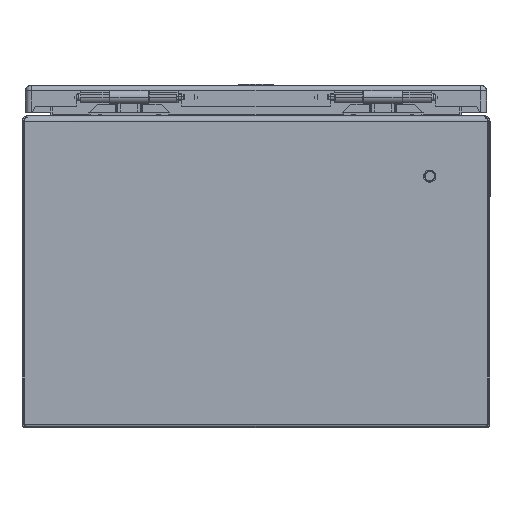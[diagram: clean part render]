
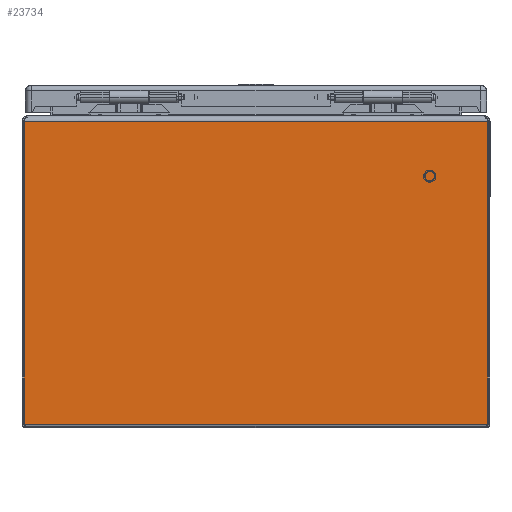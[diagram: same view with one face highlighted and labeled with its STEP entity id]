
A CAD part, left-side view. The second image highlights one B-rep face of the part: STEP entity #23734.
In plain terms, the highlighted planar face has unit normal (-1, 0, 0).
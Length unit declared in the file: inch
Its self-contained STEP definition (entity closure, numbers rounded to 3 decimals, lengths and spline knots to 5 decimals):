
#3209 = CARTESIAN_POINT ( 'NONE',  ( -12., 126., 7.859 ) ) ;
#3213 = PLANE ( 'NONE',  #6216 ) ;
#3218 = DIRECTION ( 'NONE',  ( -1., 0., 0. ) ) ;
#3219 = DIRECTION ( 'NONE',  ( 0., 0., -1. ) ) ;
#4544 = FACE_OUTER_BOUND ( 'NONE', #21582, .T. ) ;
#5188 = CARTESIAN_POINT ( 'NONE',  ( -12., 5.94693, 0.097 ) ) ;
#5191 = CARTESIAN_POINT ( 'NONE',  ( -12., 5.94693, 7.859 ) ) ;
#5244 = CARTESIAN_POINT ( 'NONE',  ( -12., -5.94693, 7.859 ) ) ;
#5249 = CARTESIAN_POINT ( 'NONE',  ( -12., -5.94693, 0.097 ) ) ;
#5993 = VECTOR ( 'NONE', #9456, 39.37008 ) ;
#5997 = LINE ( 'NONE', #9455, #5993 ) ;
#6058 = LINE ( 'NONE', #9563, #6061 ) ;
#6061 = VECTOR ( 'NONE', #9564, 39.37008 ) ;
#6079 = LINE ( 'NONE', #9597, #6085 ) ;
#6084 = LINE ( 'NONE', #9599, #6093 ) ;
#6085 = VECTOR ( 'NONE', #9598, 39.37008 ) ;
#6093 = VECTOR ( 'NONE', #9605, 39.37008 ) ;
#6216 = AXIS2_PLACEMENT_3D ( 'NONE', #3209, #3218, #3219 ) ;
#9455 = CARTESIAN_POINT ( 'NONE',  ( -12., 5.94693, 7.859 ) ) ;
#9456 = DIRECTION ( 'NONE',  ( 0., 0., -1. ) ) ;
#9563 = CARTESIAN_POINT ( 'NONE',  ( -12., -5.94693, 7.859 ) ) ;
#9564 = DIRECTION ( 'NONE',  ( 0., 0., 1. ) ) ;
#9597 = CARTESIAN_POINT ( 'NONE',  ( -12., 126., 7.859 ) ) ;
#9598 = DIRECTION ( 'NONE',  ( 0., -1., 0. ) ) ;
#9599 = CARTESIAN_POINT ( 'NONE',  ( -12., 126., 0.097 ) ) ;
#9605 = DIRECTION ( 'NONE',  ( 0., -1., 0. ) ) ;
#13777 = VERTEX_POINT ( 'NONE', #5249 ) ;
#13780 = VERTEX_POINT ( 'NONE', #5244 ) ;
#13811 = VERTEX_POINT ( 'NONE', #5191 ) ;
#13813 = VERTEX_POINT ( 'NONE', #5188 ) ;
#21582 = EDGE_LOOP ( 'NONE', ( #27111, #27112, #27113, #27114 ) ) ;
#23734 = ADVANCED_FACE ( 'NONE', ( #4544 ), #3213, .T. ) ;
#24297 = EDGE_CURVE ( 'NONE', #13811, #13813, #5997, .T. ) ;
#24340 = EDGE_CURVE ( 'NONE', #13777, #13780, #6058, .T. ) ;
#24355 = EDGE_CURVE ( 'NONE', #13811, #13780, #6079, .T. ) ;
#24358 = EDGE_CURVE ( 'NONE', #13813, #13777, #6084, .T. ) ;
#27111 = ORIENTED_EDGE ( 'NONE', *, *, #24340, .T. ) ;
#27112 = ORIENTED_EDGE ( 'NONE', *, *, #24355, .F. ) ;
#27113 = ORIENTED_EDGE ( 'NONE', *, *, #24297, .T. ) ;
#27114 = ORIENTED_EDGE ( 'NONE', *, *, #24358, .T. ) ;
